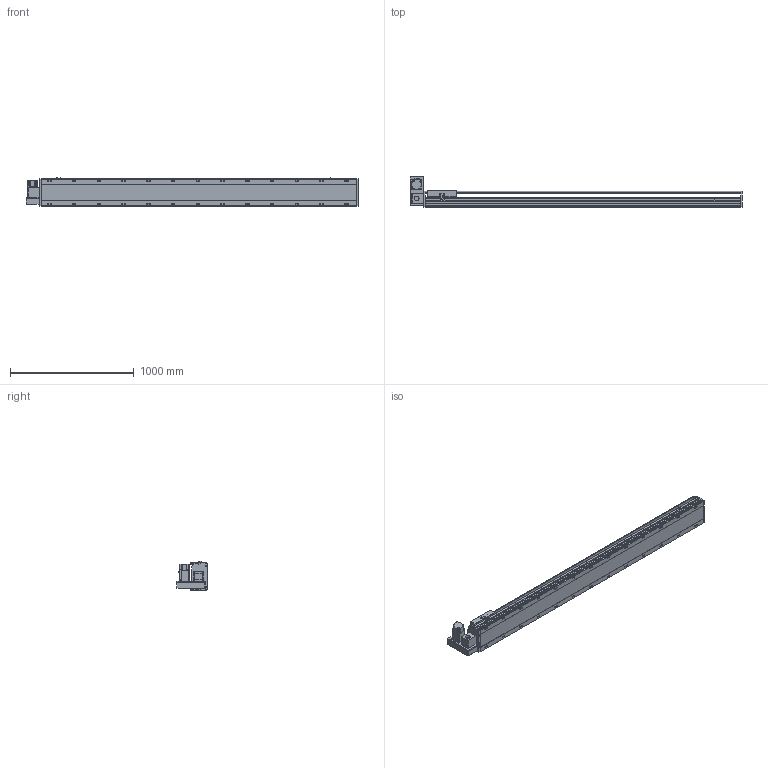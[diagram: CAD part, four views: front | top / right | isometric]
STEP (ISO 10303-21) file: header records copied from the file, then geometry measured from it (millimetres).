
FILE_DESCRIPTION(/* description */ ('STEP AP214'),/* implementation_level */ '2;1');
FILE_NAME(/* name */ 'PBS220-P40-S2200-LU-T75-C1-N(0)',/* time_stamp */ '2022-06-13T02:31:34+02:00',/* author */ ('License CC BY-ND 4.0'),/* organization */ ('CADENAS'),/* preprocessor_version */ 'ST-DEVELOPER v18.102',/* originating_system */ 'PARTsolutions',/* authorisation */ ' ');
FILE_SCHEMA (('AUTOMOTIVE_DESIGN {1 0 10303 214 3 1 1}'));
Length unit declared in the file: millimetre
Products named in the file (7): PBS220-P40-S2200-LU-T75-C1-N(0); PBS220_sensor; PBS220_plant; PBS220_sliser; T75-p1; PBS220T-LU_motors; PBS220-S2200()_body
Assembly tree (8 placements, depth 2):
  PBS220-P40-S2200-LU-T75-C1-N(0)
    PBS220_sensor  x3
    PBS220_plant
    PBS220_sliser
    T75-p1
    PBS220T-LU_motors
    PBS220-S2200()_body
Bounding box: 2684 x 247 x 238.5 mm (x, y, z)
Volume: 37622580.1 mm3; surface area: 3474218 mm2
Topology: 8 solids, 8 shells, 974 faces, 2536 edges, 1648 vertices
Faces by surface type: plane 618, cylinder 306, cone 50
Full cylindrical faces by diameter (mm): 2.013 x4, 4.5 x14, 4.917 x4, 6 x7, 6.647 x8, 8 x10, 8.376 x26, 8.5 x26, 10 x6, 14 x26, 38 x2, 40 x1, 70 x1
Entity records: 27189 total; most frequent: CARTESIAN_POINT 4822, DIRECTION 4725, ORIENTED_EDGE 4286, EDGE_CURVE 2143, AXIS2_PLACEMENT_3D 1685, VERTEX_POINT 1496, LINE 1355, VECTOR 1355
